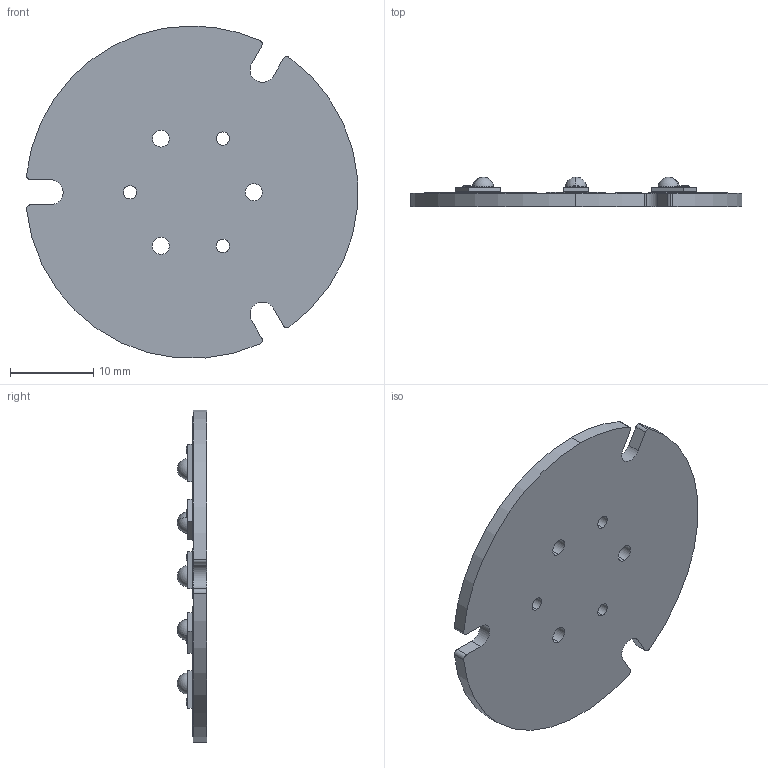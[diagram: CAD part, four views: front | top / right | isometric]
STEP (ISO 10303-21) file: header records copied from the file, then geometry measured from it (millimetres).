
FILE_DESCRIPTION (( 'STEP AP214' ), '1' );
FILE_NAME ('SP-02.STEP', '2014-07-27T17:40:25', ( 'MainServer' ), ( '' ), 'SwSTEP 2.0', 'SolidWorks 2014', '' );
FILE_SCHEMA (( 'AUTOMOTIVE_DESIGN' ));
Length unit declared in the file: inch
Products named in the file (3): Luxeon Rebel ES; SP-02 Base; SP-02
Assembly tree (8 placements, depth 2):
  SP-02
    SP-02 Base
    Luxeon Rebel ES  x7
Bounding box: 39.82 x 3.55 x 39.94 mm (x, y, z)
Volume: 2023.2 mm3; surface area: 3019.6 mm2
Topology: 8 solids, 8 shells, 1883 faces, 4927 edges, 3217 vertices
Faces by surface type: plane 1078, cylinder 435, bspline 286, sphere 42, torus 42
Entity records: 81354 total; most frequent: CARTESIAN_POINT 25350, ORIENTED_EDGE 8070, DIRECTION 6529, EDGE_CURVE 4035, LINE 2869, VECTOR 2869, VERTEX_POINT 2683, AXIS2_PLACEMENT_3D 1830
